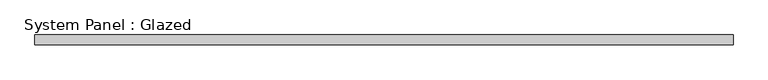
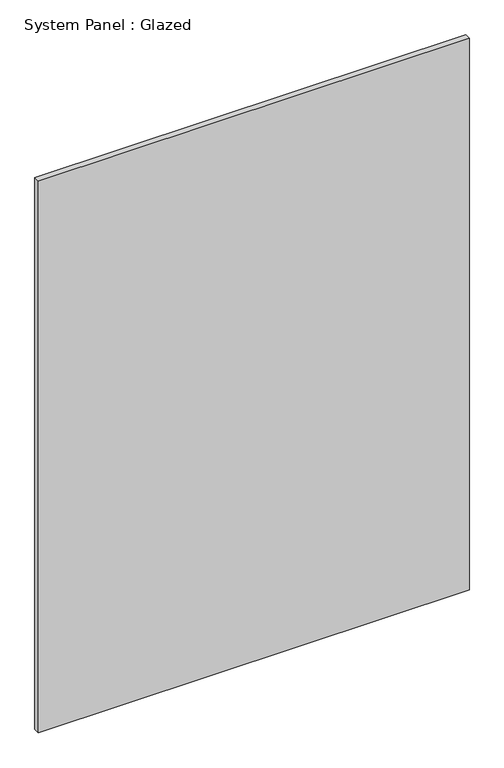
"""IFC4 building model written with IfcOpenShell, lengths in millimetres: plate geometry, System Panel : Glazed."""

from ifc_helpers import new_model, si_unit, origin, origin_with_axes, place, context, project, spatial, polyline, outline, extrude, source, transform, mapped, element, save


def system_panel_glazed_f9e88ba5(model_context):
    return source(origin(), model_context, "Body", "SweptSolid", [
        extrude(outline(polyline([(907.033577, 19.05), (-907.033577, 19.05), (-907.033577, 44.45), (907.033577, 44.45), (907.033577, 19.05)])), origin_with_axes(), (0.0, 0.0, 1.0), 2455.3333333),
    ])


if __name__ == "__main__":
    model = new_model("IFC4")
    model_context = context("Model", 3, world=origin())
    ifc_project = project(units=[si_unit("LENGTHUNIT", "METRE", prefix="MILLI")], contexts=[model_context])
    site = spatial("IfcSite", under=ifc_project)
    building = spatial("IfcBuilding", under=site)
    placement = place(None, origin())
    system_panel_glazed_shape = system_panel_glazed_f9e88ba5(model_context)
    element("IfcPlate", 1, ObjectType="System Panel : Glazed", at=placement, inside=building, context=model_context, shape_type="MappedRepresentation", body=[
        mapped(system_panel_glazed_shape, transform((0.0, 0.0, 0.0), x_axis=(1.0, 0.0, 0.0), y_axis=(0.0, 1.0, 0.0), z_axis=(0.0, 0.0, 1.0))),
    ])
    save(model, "model.ifc")
